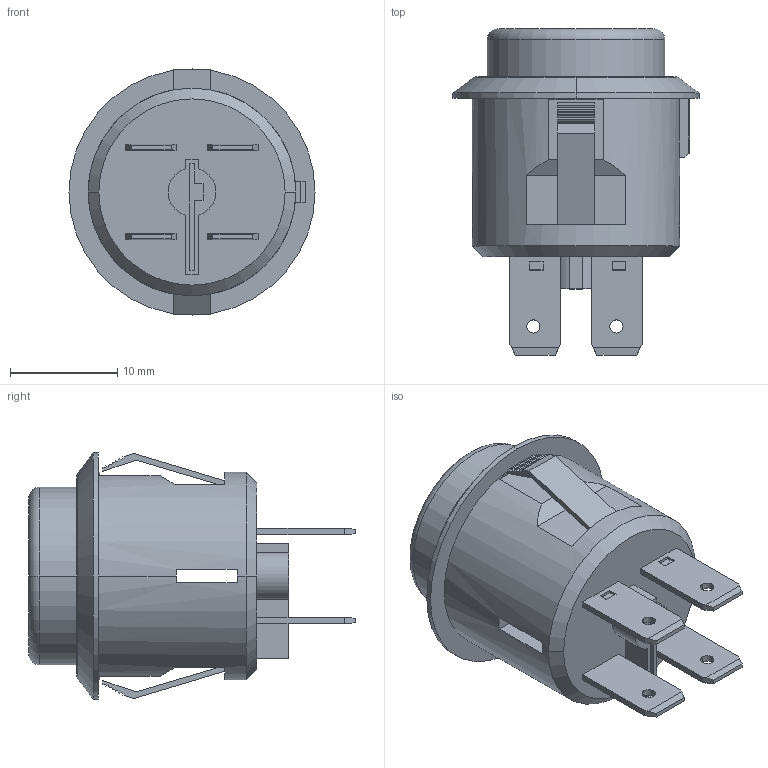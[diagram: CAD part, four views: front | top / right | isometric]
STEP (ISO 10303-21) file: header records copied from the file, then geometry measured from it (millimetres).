
FILE_DESCRIPTION((''),'2;1');
FILE_NAME('4P-BUTTON','2017-03-19T',('黃仁澤'),(''),'CREO PARAMETRIC BY PTC INC, 2016260','CREO PARAMETRIC BY PTC INC, 2016260','');
FILE_SCHEMA(('CONFIG_CONTROL_DESIGN'));
Length unit declared in the file: millimetre
Products named in the file (1): 4P-BUTTON
Bounding box: 23 x 30.5 x 23 mm (x, y, z)
Volume: 6008.8 mm3; surface area: 2979.9 mm2
Topology: 1 solids, 1 shells, 165 faces, 445 edges, 294 vertices
Faces by surface type: plane 139, cylinder 18, cone 4, torus 4
Entity records: 5173 total; most frequent: CARTESIAN_POINT 916, ORIENTED_EDGE 890, DIRECTION 829, EDGE_CURVE 445, VECTOR 379, LINE 379, VERTEX_POINT 294, AXIS2_PLACEMENT_3D 225
